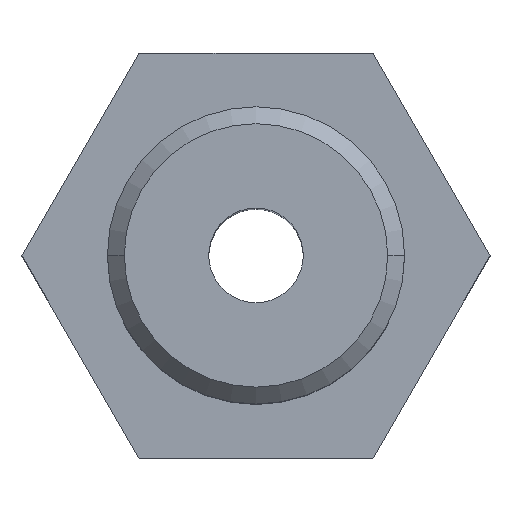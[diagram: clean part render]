
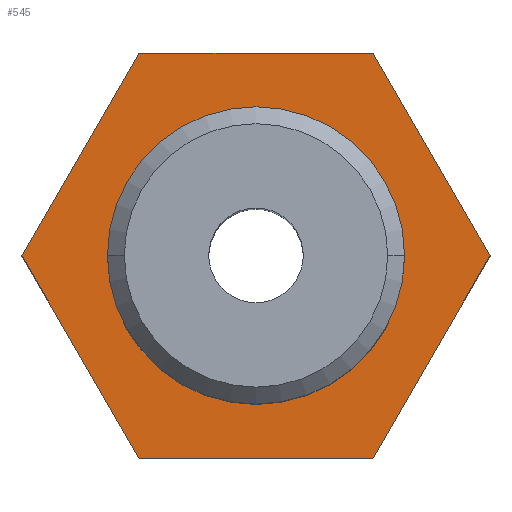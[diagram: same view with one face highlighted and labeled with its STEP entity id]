
A CAD part, top view. The second image highlights one B-rep face of the part: STEP entity #545.
In plain terms, the highlighted planar face has unit normal (0, 0, 1).
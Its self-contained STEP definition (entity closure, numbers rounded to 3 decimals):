
#27 = ORIENTED_EDGE ( 'NONE', *, *, #615, .F. ) ;
#40 = ORIENTED_EDGE ( 'NONE', *, *, #636, .F. ) ;
#56 = EDGE_CURVE ( 'NONE', #71, #99, #117, .T. ) ;
#63 = CARTESIAN_POINT ( 'NONE',  ( -4.4, 0., 5. ) ) ;
#71 = VERTEX_POINT ( 'NONE', #261 ) ;
#73 = AXIS2_PLACEMENT_3D ( 'NONE', #221, #532, #441 ) ;
#90 = VERTEX_POINT ( 'NONE', #161 ) ;
#99 = VERTEX_POINT ( 'NONE', #313 ) ;
#112 = CARTESIAN_POINT ( 'NONE',  ( 3.464, -6., 5. ) ) ;
#117 = LINE ( 'NONE', #324, #278 ) ;
#131 = CIRCLE ( 'NONE', #73, 4.4 ) ;
#144 = ORIENTED_EDGE ( 'NONE', *, *, #230, .T. ) ;
#147 = EDGE_LOOP ( 'NONE', ( #27, #40 ) ) ;
#152 = EDGE_CURVE ( 'NONE', #99, #503, #265, .T. ) ;
#153 = DIRECTION ( 'NONE',  ( 0., 0., 1. ) ) ;
#159 = EDGE_CURVE ( 'NONE', #557, #394, #182, .T. ) ;
#161 = CARTESIAN_POINT ( 'NONE',  ( 4.4, 0., 5. ) ) ;
#171 = LINE ( 'NONE', #376, #328 ) ;
#182 = LINE ( 'NONE', #331, #233 ) ;
#192 = ORIENTED_EDGE ( 'NONE', *, *, #152, .T. ) ;
#207 = DIRECTION ( 'NONE',  ( -0.5, -0.866, 0. ) ) ;
#208 = DIRECTION ( 'NONE',  ( -1., 0., 0. ) ) ;
#219 = VECTOR ( 'NONE', #208, 1000. ) ;
#221 = CARTESIAN_POINT ( 'NONE',  ( 0., 0., 5. ) ) ;
#230 = EDGE_CURVE ( 'NONE', #609, #71, #630, .T. ) ;
#233 = VECTOR ( 'NONE', #494, 1000. ) ;
#234 = DIRECTION ( 'NONE',  ( 0.5, -0.866, 0. ) ) ;
#241 = VECTOR ( 'NONE', #234, 1000. ) ;
#249 = PLANE ( 'NONE',  #588 ) ;
#254 = CARTESIAN_POINT ( 'NONE',  ( 0., 0., 5. ) ) ;
#256 = EDGE_CURVE ( 'NONE', #394, #609, #171, .T. ) ;
#261 = CARTESIAN_POINT ( 'NONE',  ( -3.464, 6., 5. ) ) ;
#263 = DIRECTION ( 'NONE',  ( 1., 0., 0. ) ) ;
#265 = LINE ( 'NONE', #653, #241 ) ;
#278 = VECTOR ( 'NONE', #207, 1000. ) ;
#283 = EDGE_CURVE ( 'NONE', #503, #557, #380, .T. ) ;
#313 = CARTESIAN_POINT ( 'NONE',  ( -6.928, 0., 5. ) ) ;
#322 = FACE_OUTER_BOUND ( 'NONE', #608, .T. ) ;
#324 = CARTESIAN_POINT ( 'NONE',  ( -3.464, 6., 5. ) ) ;
#325 = CARTESIAN_POINT ( 'NONE',  ( 3.464, 6., 5. ) ) ;
#328 = VECTOR ( 'NONE', #634, 1000. ) ;
#331 = CARTESIAN_POINT ( 'NONE',  ( 3.464, -6., 5. ) ) ;
#372 = DIRECTION ( 'NONE',  ( 1., 0., 0. ) ) ;
#376 = CARTESIAN_POINT ( 'NONE',  ( 6.928, 0., 5. ) ) ;
#377 = FACE_BOUND ( 'NONE', #147, .T. ) ;
#380 = LINE ( 'NONE', #530, #397 ) ;
#385 = AXIS2_PLACEMENT_3D ( 'NONE', #627, #153, #372 ) ;
#394 = VERTEX_POINT ( 'NONE', #403 ) ;
#397 = VECTOR ( 'NONE', #263, 1000. ) ;
#401 = ORIENTED_EDGE ( 'NONE', *, *, #56, .T. ) ;
#403 = CARTESIAN_POINT ( 'NONE',  ( 6.928, 0., 5. ) ) ;
#441 = DIRECTION ( 'NONE',  ( 1., 0., 0. ) ) ;
#442 = ORIENTED_EDGE ( 'NONE', *, *, #256, .T. ) ;
#454 = VERTEX_POINT ( 'NONE', #63 ) ;
#461 = DIRECTION ( 'NONE',  ( 0., 0., 1. ) ) ;
#470 = ORIENTED_EDGE ( 'NONE', *, *, #283, .T. ) ;
#494 = DIRECTION ( 'NONE',  ( 0.5, 0.866, 0. ) ) ;
#503 = VERTEX_POINT ( 'NONE', #573 ) ;
#512 = CARTESIAN_POINT ( 'NONE',  ( 3.464, 6., 5. ) ) ;
#517 = DIRECTION ( 'NONE',  ( 1., 0., 0. ) ) ;
#530 = CARTESIAN_POINT ( 'NONE',  ( -3.464, -6., 5. ) ) ;
#532 = DIRECTION ( 'NONE',  ( 0., 0., 1. ) ) ;
#545 = ADVANCED_FACE ( 'NONE', ( #377, #322 ), #249, .T. ) ;
#557 = VERTEX_POINT ( 'NONE', #112 ) ;
#566 = ORIENTED_EDGE ( 'NONE', *, *, #159, .T. ) ;
#573 = CARTESIAN_POINT ( 'NONE',  ( -3.464, -6., 5. ) ) ;
#588 = AXIS2_PLACEMENT_3D ( 'NONE', #254, #461, #517 ) ;
#608 = EDGE_LOOP ( 'NONE', ( #566, #442, #144, #401, #192, #470 ) ) ;
#609 = VERTEX_POINT ( 'NONE', #512 ) ;
#615 = EDGE_CURVE ( 'NONE', #454, #90, #665, .T. ) ;
#627 = CARTESIAN_POINT ( 'NONE',  ( 0., 0., 5. ) ) ;
#630 = LINE ( 'NONE', #325, #219 ) ;
#634 = DIRECTION ( 'NONE',  ( -0.5, 0.866, 0. ) ) ;
#636 = EDGE_CURVE ( 'NONE', #90, #454, #131, .T. ) ;
#653 = CARTESIAN_POINT ( 'NONE',  ( -6.928, 0., 5. ) ) ;
#665 = CIRCLE ( 'NONE', #385, 4.4 ) ;
